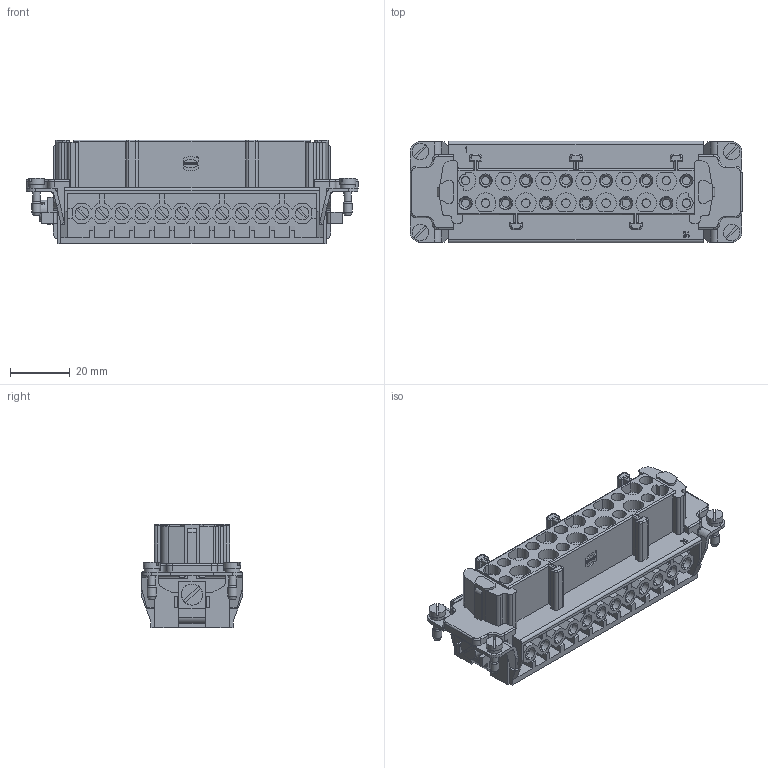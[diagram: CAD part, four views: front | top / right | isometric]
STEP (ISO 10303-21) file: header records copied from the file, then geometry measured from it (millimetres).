
FILE_DESCRIPTION(/* description */ (''),/* implementation_level */ '2;1');
FILE_NAME(/* name */ '100186613ugm000_e.stp',/* time_stamp */ '2022-03-11T16:12:12+01:00',/* author */ (''),/* organization */ (''),/* preprocessor_version */ 'ST-DEVELOPER v16.7',/* originating_system */ 'SIEMENS PLM Software NX 1911',/* authorisation */ '');
FILE_SCHEMA (('AUTOMOTIVE_DESIGN { 1 0 10303 214 3 1 1 1 }'));
Products named in the file (1): 100186613ugm000_e
Bounding box: 110.85 x 33.9 x 34.6 mm (x, y, z)
Volume: 57364.7 mm3; surface area: 35580.2 mm2
Topology: 1 solids, 1 shells, 2511 faces, 6924 edges, 4583 vertices
Faces by surface type: plane 1540, cylinder 435, bspline 394, cone 56, extrusion 50, torus 36
Full cylindrical faces by diameter (mm): 0.335 x1, 0.492 x1, 2.438 x2, 2.5 x6, 2.8 x24, 2.85 x24, 3 x4, 3.2 x25, 5 x4, 5.5 x4, 7 x1
Entity records: 114345 total; most frequent: CARTESIAN_POINT 36612, ORIENTED_EDGE 13114, DIRECTION 10776, EDGE_CURVE 6557, VERTEX_POINT 4325, VECTOR 4278, LINE 4228, AXIS2_PLACEMENT_3D 3249
